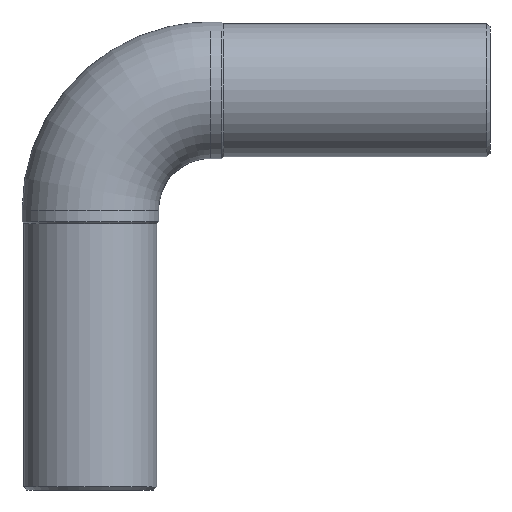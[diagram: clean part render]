
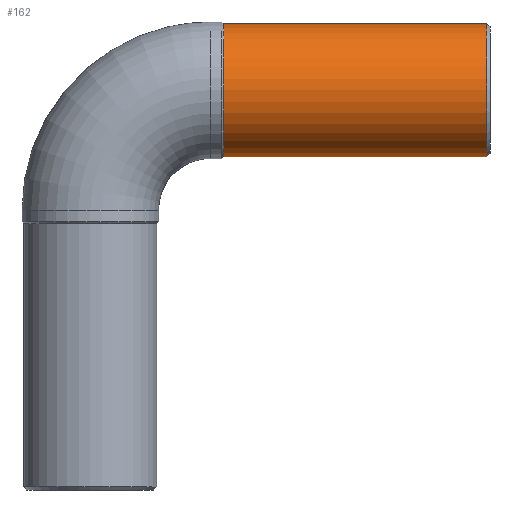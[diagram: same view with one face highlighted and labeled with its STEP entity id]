
A CAD part, front view. The second image highlights one B-rep face of the part: STEP entity #162.
In plain terms, the highlighted cylindrical face has radius 10 mm (diameter 20 mm), a full revolution.
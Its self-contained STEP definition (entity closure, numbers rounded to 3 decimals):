
#24=CYLINDRICAL_SURFACE('',#193,10.);
#34=ORIENTED_EDGE('',*,*,#58,.F.);
#35=ORIENTED_EDGE('',*,*,#61,.F.);
#58=EDGE_CURVE('',#72,#72,#86,.F.);
#61=EDGE_CURVE('',#75,#75,#89,.T.);
#72=VERTEX_POINT('',#276);
#75=VERTEX_POINT('',#283);
#86=CIRCLE('',#188,10.);
#89=CIRCLE('',#192,10.);
#104=EDGE_LOOP('',(#34));
#105=EDGE_LOOP('',(#35));
#132=FACE_BOUND('',#104,.T.);
#133=FACE_BOUND('',#105,.T.);
#162=ADVANCED_FACE('',(#132,#133),#24,.T.);
#188=AXIS2_PLACEMENT_3D('',#275,#219,#220);
#192=AXIS2_PLACEMENT_3D('',#282,#227,#228);
#193=AXIS2_PLACEMENT_3D('',#284,#229,#230);
#219=DIRECTION('',(-1.,0.,0.));
#220=DIRECTION('',(0.,0.,1.));
#227=DIRECTION('',(-1.,0.,0.));
#228=DIRECTION('',(0.,0.,1.));
#229=DIRECTION('',(1.,0.,0.));
#230=DIRECTION('',(0.,0.,1.));
#275=CARTESIAN_POINT('',(59.5,0.,60.));
#276=CARTESIAN_POINT('',(59.5,0.,70.));
#282=CARTESIAN_POINT('',(20.,0.,60.));
#283=CARTESIAN_POINT('',(20.,0.,70.));
#284=CARTESIAN_POINT('',(60.,0.,60.));
